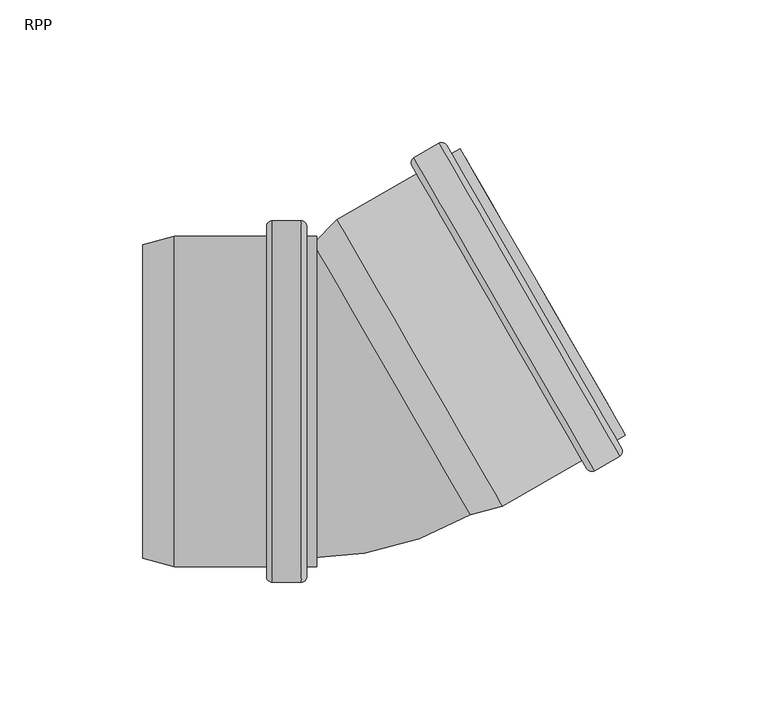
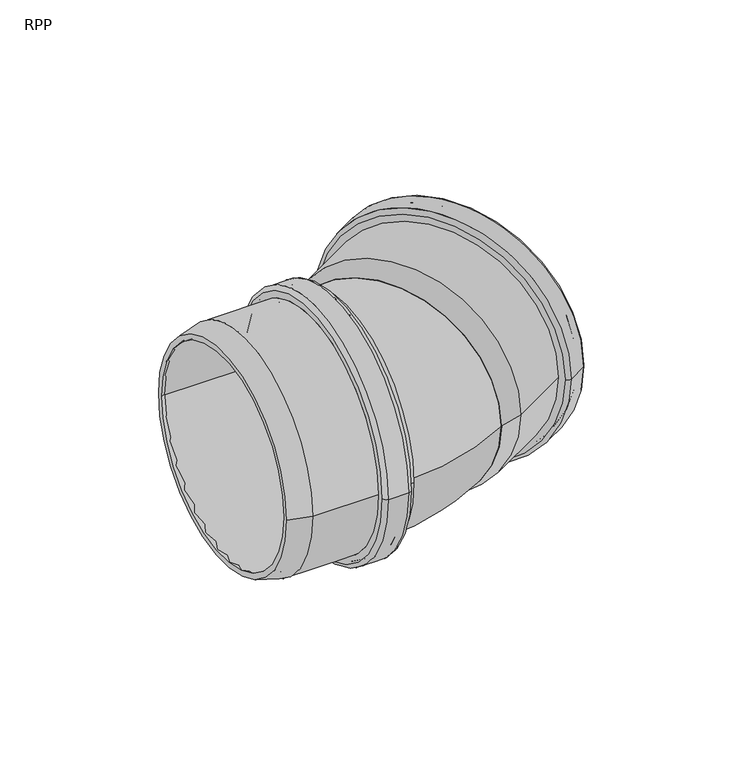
"""IFC4 building model written with IfcOpenShell, lengths in millimetres: pipe fitting geometry, RAUPIANO PLUS Bend : RPP."""

from ifc_helpers import new_model, si_unit, point, frame, origin, place, context, project, spatial, polyline, circle_curve, ellipse_curve, trimmed, source, transform, mapped, element, save
from ifc_brep_helpers import plane_surface, cylinder_surface, revolved_surface, advanced_brep


def rpp_8af34354(model_context):
    return source(origin(), model_context, "Body", "AdvancedBrep", [
        advanced_brep(
        [(-27.6090024, -55.3, 0.0), (-27.6090024, 55.3, 0.0), (-62.2573882, 55.3, 0.0), (-62.2573882, -55.3, 0.0), (-27.1090024, -60.7, 0.0), (-27.1090024, 60.7, 0.0), (-27.6090024, 60.2, 0.0), (-27.6090024, -60.2, 0.0), (-19.4090024, -60.7, 0.0), (-19.4090024, 60.7, 0.0), (-18.9090024, -60.2, 0.0), (-18.9090024, 60.2, 0.0), (-12.7090024, -55.3, 0.0), (-12.7090024, 55.3, 0.0), (-18.9090024, 55.3, 0.0), (-18.9090024, -55.3, 0.0), (-16.2090024, -58.0, 0.0), (-16.2090024, 58.0, 0.0), (-12.7090024, 58.0, 0.0), (-12.7090024, -58.0, 0.0), (-18.2090024, -63.4, 0.0), (-18.2090024, 63.4, 0.0), (-16.2090024, 61.4, 0.0), (-16.2090024, -61.4, 0.0), (-28.3090024, -63.4, 0.0), (-28.3090024, 63.4, 0.0), (-30.3090024, -61.4, 0.0), (-30.3090024, 61.4, 0.0), (-62.6128499, -58.0, 0.0), (-62.6128499, 58.0, 0.0), (-30.3090024, 58.0, 0.0), (-30.3090024, -58.0, 0.0), (-73.8090024, -55.0, 0.0), (-73.8090024, 55.0, 0.0), (-73.8090024, 52.2047543, 0.0), (-73.8090024, -52.2047543, 0.0)],
        [
            (0, 1, circle_curve(frame((-27.6090024, 0.0, 0.0), z_axis=(1.0, 0.0, 0.0), x_axis=(0.0, 1.0, 0.0)), 55.3)),
            (1, 2),
            (2, 3, circle_curve(frame((-62.2573882, 0.0, 0.0), z_axis=(-1.0, 0.0, 0.0), x_axis=(0.0, 1.0, 0.0)), 55.3)),
            (3, 0),
            (4, 5, circle_curve(frame((-27.1090024, 0.0, 0.0), z_axis=(1.0, 0.0, 0.0), x_axis=(0.0, 1.0, 0.0)), 60.7)),
            (5, 6, circle_curve(frame((-27.1090024, 60.2, 0.0), z_axis=(0.0, 0.0, 1.0), x_axis=(0.0, -1.0, 0.0)), 0.5)),
            (6, 7, circle_curve(frame((-27.6090024, 0.0, 0.0), z_axis=(-1.0, 0.0, 0.0), x_axis=(0.0, 1.0, 0.0)), 60.2)),
            (7, 4, circle_curve(frame((-27.1090024, -60.2, 0.0), z_axis=(0.0, 0.0, 1.0), x_axis=(0.0, 1.0, 0.0)), 0.5)),
            (8, 9, circle_curve(frame((-19.4090024, 0.0, 0.0), z_axis=(1.0, 0.0, 0.0), x_axis=(0.0, 1.0, 0.0)), 60.7)),
            (9, 5),
            (4, 8),
            (10, 11, circle_curve(frame((-18.9090024, 0.0, 0.0), z_axis=(1.0, 0.0, 0.0), x_axis=(0.0, 1.0, 0.0)), 60.2)),
            (11, 9, circle_curve(frame((-19.4090024, 60.2, 0.0), z_axis=(0.0, 0.0, 1.0), x_axis=(0.0, -1.0, 0.0)), 0.5)),
            (8, 10, circle_curve(frame((-19.4090024, -60.2, 0.0), z_axis=(0.0, 0.0, 1.0), x_axis=(0.0, 1.0, 0.0)), 0.5)),
            (12, 13, circle_curve(frame((-12.7090024, 0.0, 0.0), z_axis=(1.0, 0.0, 0.0), x_axis=(0.0, 1.0, 0.0)), 55.3)),
            (13, 14),
            (14, 15, circle_curve(frame((-18.9090024, 0.0, 0.0), z_axis=(-1.0, 0.0, 0.0), x_axis=(0.0, 1.0, 0.0)), 55.3)),
            (15, 12),
            (16, 17, circle_curve(frame((-16.2090024, 0.0, 0.0), z_axis=(1.0, 0.0, 0.0), x_axis=(0.0, 1.0, 0.0)), 58.0)),
            (17, 18),
            (18, 19, circle_curve(frame((-12.7090024, 0.0, 0.0), z_axis=(-1.0, 0.0, 0.0), x_axis=(0.0, 1.0, 0.0)), 58.0)),
            (19, 16),
            (20, 21, circle_curve(frame((-18.2090024, 0.0, 0.0), z_axis=(1.0, 0.0, 0.0), x_axis=(0.0, 1.0, 0.0)), 63.4)),
            (21, 22, circle_curve(frame((-18.2090024, 61.4, 0.0), z_axis=(0.0, 0.0, -1.0), x_axis=(0.0, -1.0, 0.0)), 2.0)),
            (22, 23, circle_curve(frame((-16.2090024, 0.0, 0.0), z_axis=(-1.0, 0.0, 0.0), x_axis=(0.0, 1.0, 0.0)), 61.4)),
            (23, 20, circle_curve(frame((-18.2090024, -61.4, 0.0), z_axis=(0.0, 0.0, -1.0), x_axis=(0.0, 1.0, 0.0)), 2.0)),
            (24, 25, circle_curve(frame((-28.3090024, 0.0, 0.0), z_axis=(1.0, 0.0, 0.0), x_axis=(0.0, 1.0, 0.0)), 63.4)),
            (25, 21),
            (20, 24),
            (26, 27, circle_curve(frame((-30.3090024, 0.0, 0.0), z_axis=(1.0, 0.0, 0.0), x_axis=(0.0, 1.0, 0.0)), 61.4)),
            (27, 25, circle_curve(frame((-28.3090024, 61.4, 0.0), z_axis=(0.0, 0.0, -1.0), x_axis=(0.0, -1.0, 0.0)), 2.0)),
            (24, 26, circle_curve(frame((-28.3090024, -61.4, 0.0), z_axis=(0.0, 0.0, -1.0), x_axis=(0.0, 1.0, 0.0)), 2.0)),
            (28, 29, circle_curve(frame((-62.6128499, 0.0, 0.0), z_axis=(1.0, 0.0, 0.0), x_axis=(0.0, 1.0, 0.0)), 58.0)),
            (29, 30),
            (30, 31, circle_curve(frame((-30.3090024, 0.0, 0.0), z_axis=(-1.0, 0.0, 0.0), x_axis=(0.0, 1.0, 0.0)), 58.0)),
            (31, 28),
            (32, 33, circle_curve(frame((-73.8090024, 0.0, 0.0), z_axis=(1.0, 0.0, 0.0), x_axis=(0.0, 1.0, 0.0)), 55.0)),
            (33, 29),
            (28, 32),
            (2, 34),
            (34, 35, circle_curve(frame((-73.8090024, 0.0, 0.0), z_axis=(-1.0, 0.0, 0.0), x_axis=(0.0, 1.0, 0.0)), 52.2047543)),
            (35, 3),
            (1, 0, circle_curve(frame((-27.6090024, 0.0, 0.0), z_axis=(1.0, 0.0, 0.0), x_axis=(0.0, -1.0, 0.0)), 55.3)),
            (3, 2, circle_curve(frame((-62.2573882, 0.0, 0.0), z_axis=(-1.0, 0.0, 0.0), x_axis=(0.0, -1.0, 0.0)), 55.3)),
            (6, 7, circle_curve(frame((-27.6090024, 0.0, 0.0), z_axis=(1.0, 0.0, 0.0), x_axis=(0.0, -1.0, 0.0)), 60.2)),
            (5, 4, circle_curve(frame((-27.1090024, 0.0, 0.0), z_axis=(1.0, 0.0, 0.0), x_axis=(0.0, -1.0, 0.0)), 60.7)),
            (9, 8, circle_curve(frame((-19.4090024, 0.0, 0.0), z_axis=(1.0, 0.0, 0.0), x_axis=(0.0, -1.0, 0.0)), 60.7)),
            (11, 10, circle_curve(frame((-18.9090024, 0.0, 0.0), z_axis=(1.0, 0.0, 0.0), x_axis=(0.0, -1.0, 0.0)), 60.2)),
            (14, 15, circle_curve(frame((-18.9090024, 0.0, 0.0), z_axis=(1.0, 0.0, 0.0), x_axis=(0.0, -1.0, 0.0)), 55.3)),
            (13, 12, circle_curve(frame((-12.7090024, 0.0, 0.0), z_axis=(1.0, 0.0, 0.0), x_axis=(0.0, -1.0, 0.0)), 55.3)),
            (18, 19, circle_curve(frame((-12.7090024, 0.0, 0.0), z_axis=(1.0, 0.0, 0.0), x_axis=(0.0, -1.0, 0.0)), 58.0)),
            (17, 16, circle_curve(frame((-16.2090024, 0.0, 0.0), z_axis=(1.0, 0.0, 0.0), x_axis=(0.0, -1.0, 0.0)), 58.0)),
            (22, 23, circle_curve(frame((-16.2090024, 0.0, 0.0), z_axis=(1.0, 0.0, 0.0), x_axis=(0.0, -1.0, 0.0)), 61.4)),
            (21, 20, circle_curve(frame((-18.2090024, 0.0, 0.0), z_axis=(1.0, 0.0, 0.0), x_axis=(0.0, -1.0, 0.0)), 63.4)),
            (25, 24, circle_curve(frame((-28.3090024, 0.0, 0.0), z_axis=(1.0, 0.0, 0.0), x_axis=(0.0, -1.0, 0.0)), 63.4)),
            (27, 26, circle_curve(frame((-30.3090024, 0.0, 0.0), z_axis=(1.0, 0.0, 0.0), x_axis=(0.0, -1.0, 0.0)), 61.4)),
            (30, 31, circle_curve(frame((-30.3090024, 0.0, 0.0), z_axis=(1.0, 0.0, 0.0), x_axis=(0.0, -1.0, 0.0)), 58.0)),
            (29, 28, circle_curve(frame((-62.6128499, 0.0, 0.0), z_axis=(1.0, 0.0, 0.0), x_axis=(0.0, -1.0, 0.0)), 58.0)),
            (33, 32, circle_curve(frame((-73.8090024, 0.0, 0.0), z_axis=(1.0, 0.0, 0.0), x_axis=(0.0, -1.0, 0.0)), 55.0)),
            (34, 35, circle_curve(frame((-73.8090024, 0.0, 0.0), z_axis=(1.0, 0.0, 0.0), x_axis=(0.0, -1.0, 0.0)), 52.2047543)),
        ],
        [
            revolved_surface(polyline([(-62.2573882, 55.3, 0.0), (-27.6090024, 55.3, 0.0)]), (-73.8090024, 0.0, 0.0), (-1.0, 0.0, 0.0)),
            revolved_surface(trimmed(ellipse_curve(frame((-27.1090024, 60.2, 0.0), z_axis=(0.0, 0.0, -1.0), x_axis=(0.0, -1.0, 0.0)), 0.5, 0.5), [point((-27.6090024, 60.2, 0.0))], [point((-27.1090024, 60.7, 0.0))], True, "CARTESIAN"), (-73.8090024, 0.0, 0.0), (-1.0, 0.0, 0.0)),
            revolved_surface(polyline([(-27.1090024, 60.7, 0.0), (-19.4090024, 60.7, 0.0)]), (-73.8090024, 0.0, 0.0), (-1.0, 0.0, 0.0)),
            revolved_surface(trimmed(ellipse_curve(frame((-19.4090024, 60.2, 0.0), z_axis=(0.0, 0.0, -1.0), x_axis=(0.0, -1.0, 0.0)), 0.5, 0.5), [point((-19.4090024, 60.7, 0.0))], [point((-18.9090024, 60.2, 0.0))], True, "CARTESIAN"), (-73.8090024, 0.0, 0.0), (-1.0, 0.0, 0.0)),
            revolved_surface(polyline([(-18.9090024, 55.3, 0.0), (-12.709002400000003, 55.3, 0.0)]), (-73.8090024, 0.0, 0.0), (-1.0, 0.0, 0.0)),
            cylinder_surface(frame((-73.8090024, 0.0, 0.0), z_axis=(-1.0, 0.0, 0.0), x_axis=(0.0, 1.0, 0.0)), 58.0),
            revolved_surface(trimmed(ellipse_curve(frame((-18.2090024, 61.4, 0.0), z_axis=(0.0, 0.0, 1.0), x_axis=(0.0, -1.0, 0.0)), 2.0, 2.0), [point((-16.2090024, 61.4, 0.0))], [point((-18.2090024, 63.4, 0.0))], True, "CARTESIAN"), (-73.8090024, 0.0, 0.0), (-1.0, 0.0, 0.0)),
            cylinder_surface(frame((-73.8090024, 0.0, 0.0), z_axis=(-1.0, 0.0, 0.0), x_axis=(0.0, 1.0, 0.0)), 63.4),
            revolved_surface(trimmed(ellipse_curve(frame((-28.3090024, 61.4, 0.0), z_axis=(0.0, 0.0, 1.0), x_axis=(0.0, -1.0, 0.0)), 2.0, 2.0), [point((-28.3090024, 63.4, 0.0))], [point((-30.3090024, 61.4, 0.0))], True, "CARTESIAN"), (-73.8090024, 0.0, 0.0), (-1.0, 0.0, 0.0)),
            revolved_surface(polyline([(-62.6128499, 58.0, 0.0), (-73.8090024, 55.0, 0.0)]), (-73.8090024, 0.0, 0.0), (-1.0, 0.0, 0.0)),
            revolved_surface(polyline([(-73.8090024, 52.2047543, 0.0), (-62.2573882, 55.3, 0.0)]), (-73.8090024, 0.0, 0.0), (-1.0, 0.0, 0.0)),
            revolved_surface(polyline([(-62.2573882, -55.3, 0.0), (-27.6090024, -55.3, 0.0)]), (-73.8090024, 0.0, 0.0), (-1.0, 0.0, 0.0)),
            plane_surface(frame((-27.6090024, 0.0, 0.0), z_axis=(1.0, 0.0, 0.0), x_axis=(0.0, -1.0, 0.0))),
            revolved_surface(trimmed(ellipse_curve(frame((-27.1090024, -60.2, 0.0), z_axis=(0.0, 0.0, 1.0), x_axis=(0.0, 1.0, 0.0)), 0.5, 0.5), [point((-27.6090024, -60.2, 0.0))], [point((-27.1090024, -60.7, 0.0))], True, "CARTESIAN"), (-73.8090024, 0.0, 0.0), (-1.0, 0.0, 0.0)),
            revolved_surface(polyline([(-27.1090024, -60.7, 0.0), (-19.4090024, -60.7, 0.0)]), (-73.8090024, 0.0, 0.0), (-1.0, 0.0, 0.0)),
            revolved_surface(trimmed(ellipse_curve(frame((-19.4090024, -60.2, 0.0), z_axis=(0.0, 0.0, 1.0), x_axis=(0.0, 1.0, 0.0)), 0.5, 0.5), [point((-19.4090024, -60.7, 0.0))], [point((-18.9090024, -60.2, 0.0))], True, "CARTESIAN"), (-73.8090024, 0.0, 0.0), (-1.0, 0.0, 0.0)),
            plane_surface(frame((-18.9090024, 0.0, 0.0), z_axis=(-1.0, 0.0, 0.0), x_axis=(0.0, -1.0, 0.0))),
            revolved_surface(polyline([(-18.9090024, -55.3, 0.0), (-12.709002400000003, -55.3, 0.0)]), (-73.8090024, 0.0, 0.0), (-1.0, 0.0, 0.0)),
            plane_surface(frame((-12.7090024, 0.0, 0.0), z_axis=(1.0, 0.0, 0.0), x_axis=(0.0, -1.0, 0.0))),
            cylinder_surface(frame((-73.8090024, 0.0, 0.0), z_axis=(-1.0, 0.0, 0.0), x_axis=(0.0, -1.0, 0.0)), 58.0),
            plane_surface(frame((-16.2090024, 0.0, 0.0), z_axis=(1.0, 0.0, 0.0), x_axis=(0.0, -1.0, 0.0))),
            revolved_surface(trimmed(ellipse_curve(frame((-18.2090024, -61.4, 0.0), z_axis=(0.0, 0.0, -1.0), x_axis=(0.0, 1.0, 0.0)), 2.0, 2.0), [point((-16.2090024, -61.4, 0.0))], [point((-18.2090024, -63.4, 0.0))], True, "CARTESIAN"), (-73.8090024, 0.0, 0.0), (-1.0, 0.0, 0.0)),
            cylinder_surface(frame((-73.8090024, 0.0, 0.0), z_axis=(-1.0, 0.0, 0.0), x_axis=(0.0, -1.0, 0.0)), 63.4),
            revolved_surface(trimmed(ellipse_curve(frame((-28.3090024, -61.4, 0.0), z_axis=(0.0, 0.0, -1.0), x_axis=(0.0, 1.0, 0.0)), 2.0, 2.0), [point((-28.3090024, -63.4, 0.0))], [point((-30.3090024, -61.4, 0.0))], True, "CARTESIAN"), (-73.8090024, 0.0, 0.0), (-1.0, 0.0, 0.0)),
            plane_surface(frame((-30.3090024, 0.0, 0.0), z_axis=(-1.0, 0.0, 0.0), x_axis=(0.0, -1.0, 0.0))),
            revolved_surface(polyline([(-62.6128499, -58.0, 0.0), (-73.8090024, -55.0, 0.0)]), (-73.8090024, 0.0, 0.0), (-1.0, 0.0, 0.0)),
            plane_surface(frame((-73.8090024, 0.0, 0.0), z_axis=(-1.0, 0.0, 0.0), x_axis=(0.0, -1.0, 0.0))),
            revolved_surface(polyline([(-73.8090024, -52.2047543, 0.0), (-62.2573882, -55.3, 0.0)]), (-73.8090024, 0.0, 0.0), (-1.0, 0.0, 0.0)),
        ],
        [
            (0, [[1, 2, 3, 4]]),
            (1, [[5, 6, 7, 8]]),
            (2, [[9, 10, -5, 11]]),
            (3, [[12, 13, -9, 14]]),
            (4, [[15, 16, 17, 18]]),
            (5, [[19, 20, 21, 22]]),
            (6, [[23, 24, 25, 26]]),
            (7, [[27, 28, -23, 29]]),
            (8, [[30, 31, -27, 32]]),
            (5, [[33, 34, 35, 36]]),
            (9, [[37, 38, -33, 39]]),
            (10, [[-3, 40, 41, 42]]),
            (11, [[43, -4, 44, -2]]),
            (12, [[45, -7], [-43, -1]]),
            (13, [[46, -8, -45, -6]]),
            (14, [[47, -11, -46, -10]]),
            (15, [[48, -14, -47, -13]]),
            (16, [[-48, -12], [49, -17]]),
            (17, [[50, -18, -49, -16]]),
            (18, [[51, -21], [-50, -15]]),
            (19, [[52, -22, -51, -20]]),
            (20, [[53, -25], [-52, -19]]),
            (21, [[54, -26, -53, -24]]),
            (22, [[55, -29, -54, -28]]),
            (23, [[56, -32, -55, -31]]),
            (24, [[-56, -30], [57, -35]]),
            (19, [[58, -36, -57, -34]]),
            (25, [[59, -39, -58, -38]]),
            (26, [[-59, -37], [60, -41]]),
            (27, [[-44, -42, -60, -40]]),
        ],
    ),
        advanced_brep(
        [(39.7933748, -37.3061423, 0.0), (-12.4113795, 53.1151446, 0.0), (-3.955011, 61.5715131, 0.0), (51.344989, -34.2108966, 0.0), (52.3871501, -36.726896, 0.0), (-5.6128499, 63.7320508, 0.0), (-13.8090024, 55.5358984, 0.0), (41.1909976, -39.726896, 0.0), (80.3631027, -20.5749722, 0.0), (22.3631027, 79.8839746, 0.0), (93.5420101, -19.2015094, 0.0), (30.1420101, 90.6105118, 0.0), (21.3951535, 85.5605118, 0.0), (84.7951535, -24.2515094, 0.0), (95.6051498, -11.7749722, 0.0), (37.6051498, 88.6839746, 0.0), (34.5740609, 86.9339746, 0.0), (92.5740609, -13.5249722, 0.0), (88.8857923, -12.5367037, 0.0), (33.5857923, 83.245706, 0.0), (38.9551498, 86.345706, 0.0), (94.2551498, -9.4367037, 0.0), (84.484384, -21.3132408, 0.0), (23.784384, 83.8222432, 0.0), (30.4527796, 87.6722432, 0.0), (91.1527796, -17.4632408, 0.0), (26.0513713, 78.895706, 0.0), (81.3513713, -16.8867037, 0.0), (20.6631027, 82.828461, 0.0), (82.0631027, -23.5194586, 0.0), (94.2740609, -16.4694586, 0.0), (32.8740609, 89.878461, 0.0), (31.1357923, 87.4892305, 0.0), (91.3357923, -16.7802281, 0.0), (83.8013713, -21.1302281, 0.0), (23.6013713, 83.1392305, 0.0)],
        [
            (0, 1, circle_curve(frame((13.6909976, 7.9045012, 0.0), z_axis=(-0.8660254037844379, -0.5000000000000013, 0.0), x_axis=(-0.5000000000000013, 0.8660254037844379, 0.0)), 52.2047543)),
            (1, 2),
            (2, 3, circle_curve(frame((23.694989, 13.6803083, 0.0), z_axis=(0.8660254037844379, 0.5000000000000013, 0.0), x_axis=(-0.5000000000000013, 0.8660254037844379, 0.0)), 55.3)),
            (3, 0),
            (4, 5, circle_curve(frame((23.3871501, 13.5025774, 0.0), z_axis=(-0.8660254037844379, -0.5000000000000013, 0.0), x_axis=(-0.5000000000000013, 0.8660254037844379, 0.0)), 58.0)),
            (5, 6),
            (6, 7, circle_curve(frame((13.6909976, 7.9045012, 0.0), z_axis=(0.8660254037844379, 0.5000000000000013, 0.0), x_axis=(-0.5000000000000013, 0.8660254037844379, 0.0)), 55.0)),
            (7, 4),
            (8, 9, circle_curve(frame((51.3631027, 29.6545012, 0.0), z_axis=(-0.8660254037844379, -0.5000000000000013, 0.0), x_axis=(-0.5000000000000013, 0.8660254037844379, 0.0)), 58.0)),
            (9, 5),
            (4, 8),
            (10, 11, circle_curve(frame((61.8420101, 35.7045012, 0.0), z_axis=(-0.8660254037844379, -0.5000000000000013, 0.0), x_axis=(-0.5000000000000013, 0.8660254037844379, 0.0)), 63.4)),
            (11, 12),
            (12, 13, circle_curve(frame((53.0951535, 30.6545012, 0.0), z_axis=(0.8660254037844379, 0.5000000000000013, 0.0), x_axis=(-0.5000000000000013, 0.8660254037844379, 0.0)), 63.4)),
            (13, 10),
            (14, 15, circle_curve(frame((66.6051498, 38.4545012, 0.0), z_axis=(-0.8660254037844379, -0.5000000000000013, 0.0), x_axis=(-0.5000000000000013, 0.8660254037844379, 0.0)), 58.0)),
            (15, 16),
            (16, 17, circle_curve(frame((63.5740609, 36.7045012, 0.0), z_axis=(0.8660254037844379, 0.5000000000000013, 0.0), x_axis=(-0.5000000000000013, 0.8660254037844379, 0.0)), 58.0)),
            (17, 14),
            (18, 19, circle_curve(frame((61.2357923, 35.3545012, 0.0), z_axis=(-0.8660254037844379, -0.5000000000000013, 0.0), x_axis=(-0.5000000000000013, 0.8660254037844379, 0.0)), 55.3)),
            (19, 20),
            (20, 21, circle_curve(frame((66.6051498, 38.4545012, 0.0), z_axis=(0.8660254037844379, 0.5000000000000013, 0.0), x_axis=(-0.5000000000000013, 0.8660254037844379, 0.0)), 55.3)),
            (21, 18),
            (22, 23, circle_curve(frame((54.134384, 31.2545012, 0.0), z_axis=(-0.8660254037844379, -0.5000000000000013, 0.0), x_axis=(-0.5000000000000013, 0.8660254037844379, 0.0)), 60.7)),
            (23, 24),
            (24, 25, circle_curve(frame((60.8027796, 35.1045012, 0.0), z_axis=(0.8660254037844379, 0.5000000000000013, 0.0), x_axis=(-0.5000000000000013, 0.8660254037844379, 0.0)), 60.7)),
            (25, 22),
            (2, 26),
            (26, 27, circle_curve(frame((53.7013713, 31.0045012, 0.0), z_axis=(0.8660254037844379, 0.5000000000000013, 0.0), x_axis=(-0.5000000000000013, 0.8660254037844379, 0.0)), 55.3)),
            (27, 3),
            (1, 0, circle_curve(frame((13.6909976, 7.9045012, 0.0), z_axis=(-0.8660254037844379, -0.5000000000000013, 0.0), x_axis=(0.5000000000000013, -0.8660254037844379, 0.0)), 52.2047543)),
            (3, 2, circle_curve(frame((23.694989, 13.6803083, 0.0), z_axis=(0.8660254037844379, 0.5000000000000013, 0.0), x_axis=(0.5000000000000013, -0.8660254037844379, 0.0)), 55.3)),
            (6, 7, circle_curve(frame((13.6909976, 7.9045012, 0.0), z_axis=(-0.8660254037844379, -0.5000000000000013, 0.0), x_axis=(0.5000000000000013, -0.8660254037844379, 0.0)), 55.0)),
            (5, 4, circle_curve(frame((23.3871501, 13.5025774, 0.0), z_axis=(-0.8660254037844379, -0.5000000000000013, 0.0), x_axis=(0.5000000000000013, -0.8660254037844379, 0.0)), 58.0)),
            (9, 8, circle_curve(frame((51.3631027, 29.6545012, 0.0), z_axis=(-0.8660254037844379, -0.5000000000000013, 0.0), x_axis=(0.5000000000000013, -0.8660254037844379, 0.0)), 58.0)),
            (28, 29, circle_curve(frame((51.3631027, 29.6545012, 0.0), z_axis=(-0.8660254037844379, -0.5000000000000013, 0.0), x_axis=(0.5000000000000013, -0.8660254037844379, 0.0)), 61.4)),
            (29, 28, circle_curve(frame((51.3631027, 29.6545012, 0.0), z_axis=(-0.8660254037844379, -0.5000000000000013, 0.0), x_axis=(-0.5000000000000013, 0.8660254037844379, 0.0)), 61.4)),
            (11, 10, circle_curve(frame((61.8420101, 35.7045012, 0.0), z_axis=(-0.8660254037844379, -0.5000000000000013, 0.0), x_axis=(0.5000000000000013, -0.8660254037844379, 0.0)), 63.4)),
            (13, 12, circle_curve(frame((53.0951535, 30.6545012, 0.0), z_axis=(0.8660254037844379, 0.5000000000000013, 0.0), x_axis=(0.5000000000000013, -0.8660254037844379, 0.0)), 63.4)),
            (30, 31, circle_curve(frame((63.5740609, 36.7045012, 0.0), z_axis=(0.8660254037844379, 0.5000000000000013, 0.0), x_axis=(0.5000000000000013, -0.8660254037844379, 0.0)), 61.4)),
            (31, 30, circle_curve(frame((63.5740609, 36.7045012, 0.0), z_axis=(0.8660254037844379, 0.5000000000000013, 0.0), x_axis=(-0.5000000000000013, 0.8660254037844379, 0.0)), 61.4)),
            (16, 17, circle_curve(frame((63.5740609, 36.7045012, 0.0), z_axis=(-0.8660254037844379, -0.5000000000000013, 0.0), x_axis=(0.5000000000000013, -0.8660254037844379, 0.0)), 58.0)),
            (15, 14, circle_curve(frame((66.6051498, 38.4545012, 0.0), z_axis=(-0.8660254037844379, -0.5000000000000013, 0.0), x_axis=(0.5000000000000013, -0.8660254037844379, 0.0)), 58.0)),
            (20, 21, circle_curve(frame((66.6051498, 38.4545012, 0.0), z_axis=(-0.8660254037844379, -0.5000000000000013, 0.0), x_axis=(0.5000000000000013, -0.8660254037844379, 0.0)), 55.3)),
            (19, 18, circle_curve(frame((61.2357923, 35.3545012, 0.0), z_axis=(-0.8660254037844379, -0.5000000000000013, 0.0), x_axis=(0.5000000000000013, -0.8660254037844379, 0.0)), 55.3)),
            (32, 33, circle_curve(frame((61.2357923, 35.3545012, 0.0), z_axis=(-0.8660254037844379, -0.5000000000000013, 0.0), x_axis=(0.5000000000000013, -0.8660254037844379, 0.0)), 60.2)),
            (33, 32, circle_curve(frame((61.2357923, 35.3545012, 0.0), z_axis=(-0.8660254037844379, -0.5000000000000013, 0.0), x_axis=(-0.5000000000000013, 0.8660254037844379, 0.0)), 60.2)),
            (23, 22, circle_curve(frame((54.134384, 31.2545012, 0.0), z_axis=(-0.8660254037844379, -0.5000000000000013, 0.0), x_axis=(0.5000000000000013, -0.8660254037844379, 0.0)), 60.7)),
            (25, 24, circle_curve(frame((60.8027796, 35.1045012, 0.0), z_axis=(0.8660254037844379, 0.5000000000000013, 0.0), x_axis=(0.5000000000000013, -0.8660254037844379, 0.0)), 60.7)),
            (34, 35, circle_curve(frame((53.7013713, 31.0045012, 0.0), z_axis=(0.8660254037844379, 0.5000000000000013, 0.0), x_axis=(0.5000000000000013, -0.8660254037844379, 0.0)), 60.2)),
            (35, 34, circle_curve(frame((53.7013713, 31.0045012, 0.0), z_axis=(0.8660254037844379, 0.5000000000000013, 0.0), x_axis=(-0.5000000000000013, 0.8660254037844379, 0.0)), 60.2)),
            (26, 27, circle_curve(frame((53.7013713, 31.0045012, 0.0), z_axis=(-0.8660254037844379, -0.5000000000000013, 0.0), x_axis=(0.5000000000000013, -0.8660254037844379, 0.0)), 55.3)),
            (12, 28, circle_curve(frame((22.3951535, 83.828461, 0.0), z_axis=(0.0, 0.0, 1.0), x_axis=(0.5000000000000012, -0.866025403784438, 0.0)), 2.0)),
            (29, 13, circle_curve(frame((83.7951535, -22.5194586, 0.0), z_axis=(0.0, 0.0, 1.0), x_axis=(-0.5000000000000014, 0.8660254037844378, 0.0)), 2.0)),
            (31, 11, circle_curve(frame((31.1420101, 88.878461, 0.0), z_axis=(0.0, 0.0, 1.0), x_axis=(0.5000000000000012, -0.866025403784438, 0.0)), 2.0)),
            (10, 30, circle_curve(frame((92.5420101, -17.4694586, 0.0), z_axis=(0.0, 0.0, 1.0), x_axis=(-0.5000000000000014, 0.8660254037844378, 0.0)), 2.0)),
            (24, 32, circle_curve(frame((30.7027796, 87.2392305, 0.0), z_axis=(0.0, 0.0, -1.0), x_axis=(0.5000000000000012, -0.866025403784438, 0.0)), 0.5)),
            (33, 25, circle_curve(frame((90.9027796, -17.0302281, 0.0), z_axis=(0.0, 0.0, -1.0), x_axis=(-0.5000000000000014, 0.8660254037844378, 0.0)), 0.5)),
            (35, 23, circle_curve(frame((24.034384, 83.3892305, 0.0), z_axis=(0.0, 0.0, -1.0), x_axis=(0.5000000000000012, -0.866025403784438, 0.0)), 0.5)),
            (22, 34, circle_curve(frame((84.234384, -20.8802281, 0.0), z_axis=(0.0, 0.0, -1.0), x_axis=(-0.5000000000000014, 0.8660254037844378, 0.0)), 0.5)),
        ],
        [
            revolved_surface(polyline([(-3.955011, 61.5715131, 0.0), (-12.4113795, 53.1151446, 0.0)]), (13.6909976, 7.9045012, 0.0), (0.8660254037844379, 0.5000000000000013, 0.0)),
            revolved_surface(polyline([(-13.8090024, 55.5358984, 0.0), (-5.6128499, 63.7320508, 0.0)]), (13.6909976, 7.9045012, 0.0), (0.8660254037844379, 0.5000000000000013, 0.0)),
            cylinder_surface(frame((13.6909976, 7.9045012, 0.0), z_axis=(0.8660254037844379, 0.5000000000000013, 0.0), x_axis=(-0.5000000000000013, 0.8660254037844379, 0.0)), 58.0),
            cylinder_surface(frame((13.6909976, 7.9045012, 0.0), z_axis=(0.8660254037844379, 0.5000000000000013, 0.0), x_axis=(-0.5000000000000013, 0.8660254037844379, 0.0)), 63.4),
            revolved_surface(polyline([(38.95514979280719, 86.34570604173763, 0.0), (33.58579226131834, 83.24570602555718, 0.0)]), (13.6909976, 7.9045012, 0.0), (0.8660254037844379, 0.5000000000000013, 0.0)),
            revolved_surface(polyline([(30.452779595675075, 87.6722432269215, 0.0), (23.784383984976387, 83.82224322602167, 0.0)]), (13.6909976, 7.9045012, 0.0), (0.8660254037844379, 0.5000000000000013, 0.0)),
            revolved_surface(polyline([(26.051371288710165, 78.89570604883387, 0.0), (-3.9550110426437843, 61.57151313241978, 0.0)]), (13.6909976, 7.9045012, 0.0), (0.8660254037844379, 0.5000000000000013, 0.0)),
            revolved_surface(polyline([(51.344989, -34.2108966, 0.0), (39.7933748, -37.3061423, 0.0)]), (13.6909976, 7.9045012, 0.0), (0.8660254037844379, 0.5000000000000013, 0.0)),
            plane_surface(frame((13.6909976, 7.9045012, 0.0), z_axis=(-0.8660254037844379, -0.5000000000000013, 0.0), x_axis=(0.5000000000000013, -0.8660254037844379, 0.0))),
            revolved_surface(polyline([(41.1909976, -39.726896, 0.0), (52.3871501, -36.726896, 0.0)]), (13.6909976, 7.9045012, 0.0), (0.8660254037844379, 0.5000000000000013, 0.0)),
            cylinder_surface(frame((13.6909976, 7.9045012, 0.0), z_axis=(0.8660254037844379, 0.5000000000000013, 0.0), x_axis=(0.5000000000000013, -0.8660254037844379, 0.0)), 58.0),
            plane_surface(frame((51.3631027, 29.6545012, 0.0), z_axis=(-0.8660254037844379, -0.5000000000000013, 0.0), x_axis=(0.5000000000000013, -0.8660254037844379, 0.0))),
            cylinder_surface(frame((13.6909976, 7.9045012, 0.0), z_axis=(0.8660254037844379, 0.5000000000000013, 0.0), x_axis=(0.5000000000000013, -0.8660254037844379, 0.0)), 63.4),
            plane_surface(frame((63.5740609, 36.7045012, 0.0), z_axis=(0.8660254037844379, 0.5000000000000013, 0.0), x_axis=(0.5000000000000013, -0.8660254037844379, 0.0))),
            plane_surface(frame((66.6051498, 38.4545012, 0.0), z_axis=(0.8660254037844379, 0.5000000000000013, 0.0), x_axis=(0.5000000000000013, -0.8660254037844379, 0.0))),
            revolved_surface(polyline([(94.25514979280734, -9.436703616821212, 0.0), (88.88579226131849, -12.536703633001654, 0.0)]), (13.6909976, 7.9045012, 0.0), (0.8660254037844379, 0.5000000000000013, 0.0)),
            plane_surface(frame((61.2357923, 35.3545012, 0.0), z_axis=(-0.8660254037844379, -0.5000000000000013, 0.0), x_axis=(0.5000000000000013, -0.8660254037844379, 0.0))),
            revolved_surface(polyline([(91.15277959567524, -17.46324079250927, 0.0), (84.48438398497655, -21.31324079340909, 0.0)]), (13.6909976, 7.9045012, 0.0), (0.8660254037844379, 0.5000000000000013, 0.0)),
            plane_surface(frame((53.7013713, 31.0045012, 0.0), z_axis=(0.8660254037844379, 0.5000000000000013, 0.0), x_axis=(0.5000000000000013, -0.8660254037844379, 0.0))),
            revolved_surface(polyline([(81.35137128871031, -16.88670360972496, 0.0), (51.344988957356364, -34.21089652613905, 0.0)]), (13.6909976, 7.9045012, 0.0), (0.8660254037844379, 0.5000000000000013, 0.0)),
            revolved_surface(trimmed(ellipse_curve(frame((22.3951535, 83.828461, 0.0), z_axis=(0.0, 0.0, -1.0), x_axis=(0.5000000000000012, -0.866025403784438, 0.0)), 2.0, 2.0), [point((20.6631027, 82.828461, 0.0))], [point((21.3951535, 85.5605118, 0.0))], True, "CARTESIAN"), (13.6909976, 7.9045012, 0.0), (0.8660254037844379, 0.5000000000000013, 0.0)),
            revolved_surface(trimmed(ellipse_curve(frame((31.1420101, 88.878461, 0.0), z_axis=(0.0, 0.0, -1.0), x_axis=(0.5000000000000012, -0.866025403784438, 0.0)), 2.0, 2.0), [point((30.1420101, 90.6105118, 0.0))], [point((32.8740609, 89.878461, 0.0))], True, "CARTESIAN"), (13.6909976, 7.9045012, 0.0), (0.8660254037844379, 0.5000000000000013, 0.0)),
            revolved_surface(trimmed(ellipse_curve(frame((30.7027796, 87.2392305, 0.0), z_axis=(0.0, 0.0, 1.0), x_axis=(0.5000000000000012, -0.866025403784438, 0.0)), 0.5, 0.5), [point((31.1357923, 87.4892305, 0.0))], [point((30.4527796, 87.6722432, 0.0))], True, "CARTESIAN"), (13.6909976, 7.9045012, 0.0), (0.8660254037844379, 0.5000000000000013, 0.0)),
            revolved_surface(trimmed(ellipse_curve(frame((24.034384, 83.3892305, 0.0), z_axis=(0.0, 0.0, 1.0), x_axis=(0.5000000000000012, -0.866025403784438, 0.0)), 0.5, 0.5), [point((23.784384, 83.8222432, 0.0))], [point((23.6013713, 83.1392305, 0.0))], True, "CARTESIAN"), (13.6909976, 7.9045012, 0.0), (0.8660254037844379, 0.5000000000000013, 0.0)),
            revolved_surface(trimmed(ellipse_curve(frame((83.7951535, -22.5194586, 0.0), z_axis=(0.0, 0.0, 1.0), x_axis=(-0.5000000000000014, 0.8660254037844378, 0.0)), 2.0, 2.0), [point((82.0631027, -23.5194586, 0.0))], [point((84.7951535, -24.2515094, 0.0))], True, "CARTESIAN"), (13.6909976, 7.9045012, 0.0), (0.8660254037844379, 0.5000000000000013, 0.0)),
            revolved_surface(trimmed(ellipse_curve(frame((92.5420101, -17.4694586, 0.0), z_axis=(0.0, 0.0, 1.0), x_axis=(-0.5000000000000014, 0.8660254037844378, 0.0)), 2.0, 2.0), [point((93.5420101, -19.2015094, 0.0))], [point((94.2740609, -16.4694586, 0.0))], True, "CARTESIAN"), (13.6909976, 7.9045012, 0.0), (0.8660254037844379, 0.5000000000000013, 0.0)),
            revolved_surface(trimmed(ellipse_curve(frame((90.9027796, -17.0302281, 0.0), z_axis=(0.0, 0.0, -1.0), x_axis=(-0.5000000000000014, 0.8660254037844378, 0.0)), 0.5, 0.5), [point((91.3357923, -16.7802281, 0.0))], [point((91.1527796, -17.4632408, 0.0))], True, "CARTESIAN"), (13.6909976, 7.9045012, 0.0), (0.8660254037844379, 0.5000000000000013, 0.0)),
            revolved_surface(trimmed(ellipse_curve(frame((84.234384, -20.8802281, 0.0), z_axis=(0.0, 0.0, -1.0), x_axis=(-0.5000000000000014, 0.8660254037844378, 0.0)), 0.5, 0.5), [point((84.484384, -21.3132408, 0.0))], [point((83.8013713, -21.1302281, 0.0))], True, "CARTESIAN"), (13.6909976, 7.9045012, 0.0), (0.8660254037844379, 0.5000000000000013, 0.0)),
        ],
        [
            (0, [[1, 2, 3, 4]]),
            (1, [[5, 6, 7, 8]]),
            (2, [[9, 10, -5, 11]]),
            (3, [[12, 13, 14, 15]]),
            (2, [[16, 17, 18, 19]]),
            (4, [[20, 21, 22, 23]]),
            (5, [[24, 25, 26, 27]]),
            (6, [[-3, 28, 29, 30]]),
            (7, [[31, -4, 32, -2]]),
            (8, [[33, -7], [-31, -1]]),
            (9, [[34, -8, -33, -6]]),
            (10, [[35, -11, -34, -10]]),
            (11, [[36, 37], [-35, -9]]),
            (12, [[38, -15, 39, -13]]),
            (13, [[40, 41], [42, -18]]),
            (10, [[43, -19, -42, -17]]),
            (14, [[-43, -16], [44, -22]]),
            (15, [[45, -23, -44, -21]]),
            (16, [[46, 47], [-45, -20]]),
            (17, [[48, -27, 49, -25]]),
            (18, [[50, 51], [52, -29]]),
            (19, [[-32, -30, -52, -28]]),
            (20, [[-14, 53, -37, 54]]),
            (21, [[-41, 55, -12, 56]]),
            (22, [[-26, 57, -47, 58]]),
            (23, [[-51, 59, -24, 60]]),
            (24, [[-39, -54, -36, -53]]),
            (25, [[-40, -56, -38, -55]]),
            (26, [[-49, -58, -46, -57]]),
            (27, [[-50, -60, -48, -59]]),
        ],
    ),
        advanced_brep(
        [(-15.8090024, 52.3, 0.0), (-15.8090024, -52.3, 0.0), (-73.8090024, -52.3, 0.0), (-73.8090024, 52.3, 0.0), (-66.7181058, 55.0, 0.0), (-66.7181058, -55.0, 0.0), (-15.8090024, -55.0, 0.0), (-15.8090024, 55.0, 0.0), (-73.8090024, 53.1, 0.0), (-73.8090024, -53.1, 0.0)],
        [
            (0, 1, circle_curve(frame((-15.8090024, 0.0, 0.0), z_axis=(1.0, 0.0, 0.0), x_axis=(0.0, -1.0, 0.0)), 52.3)),
            (1, 2),
            (2, 3, circle_curve(frame((-73.8090024, 0.0, 0.0), z_axis=(-1.0, 0.0, 0.0), x_axis=(0.0, -1.0, 0.0)), 52.3)),
            (3, 0),
            (4, 5, circle_curve(frame((-66.7181058, 0.0, 0.0), z_axis=(1.0, 0.0, 0.0), x_axis=(0.0, -1.0, 0.0)), 55.0)),
            (5, 6),
            (6, 7, circle_curve(frame((-15.8090024, 0.0, 0.0), z_axis=(-1.0, 0.0, 0.0), x_axis=(0.0, -1.0, 0.0)), 55.0)),
            (7, 4),
            (8, 9, circle_curve(frame((-73.8090024, 0.0, 0.0), z_axis=(1.0, 0.0, 0.0), x_axis=(0.0, -1.0, 0.0)), 53.1)),
            (9, 5),
            (4, 8),
            (1, 0, circle_curve(frame((-15.8090024, 0.0, 0.0), z_axis=(1.0, 0.0, 0.0), x_axis=(0.0, 1.0, 0.0)), 52.3)),
            (3, 2, circle_curve(frame((-73.8090024, 0.0, 0.0), z_axis=(-1.0, 0.0, 0.0), x_axis=(0.0, 1.0, 0.0)), 52.3)),
            (6, 7, circle_curve(frame((-15.8090024, 0.0, 0.0), z_axis=(1.0, 0.0, 0.0), x_axis=(0.0, 1.0, 0.0)), 55.0)),
            (5, 4, circle_curve(frame((-66.7181058, 0.0, 0.0), z_axis=(1.0, 0.0, 0.0), x_axis=(0.0, 1.0, 0.0)), 55.0)),
            (9, 8, circle_curve(frame((-73.8090024, 0.0, 0.0), z_axis=(1.0, 0.0, 0.0), x_axis=(0.0, 1.0, 0.0)), 53.1)),
        ],
        [
            revolved_surface(polyline([(-73.8090024, -52.3, 0.0), (-15.8090024, -52.3, 0.0)]), (-15.8090024, 0.0, 0.0), (-1.0, 0.0, 0.0)),
            cylinder_surface(frame((-15.8090024, 0.0, 0.0), z_axis=(-1.0, 0.0, 0.0), x_axis=(0.0, -1.0, 0.0)), 55.0),
            revolved_surface(polyline([(-66.7181058, -55.0, 0.0), (-73.8090024, -53.1, 0.0)]), (-15.8090024, 0.0, 0.0), (-1.0, 0.0, 0.0)),
            revolved_surface(polyline([(-73.8090024, 52.3, 0.0), (-15.8090024, 52.3, 0.0)]), (-15.8090024, 0.0, 0.0), (-1.0, 0.0, 0.0)),
            plane_surface(frame((-15.8090024, 0.0, 0.0), z_axis=(1.0, 0.0, 0.0), x_axis=(0.0, 1.0, 0.0))),
            cylinder_surface(frame((-15.8090024, 0.0, 0.0), z_axis=(-1.0, 0.0, 0.0), x_axis=(0.0, 1.0, 0.0)), 55.0),
            revolved_surface(polyline([(-66.7181058, 55.0, 0.0), (-73.8090024, 53.1, 0.0)]), (-15.8090024, 0.0, 0.0), (-1.0, 0.0, 0.0)),
            plane_surface(frame((-73.8090024, 0.0, 0.0), z_axis=(-1.0, 0.0, 0.0), x_axis=(0.0, 1.0, 0.0))),
        ],
        [
            (0, [[1, 2, 3, 4]]),
            (1, [[5, 6, 7, 8]]),
            (2, [[9, 10, -5, 11]]),
            (3, [[12, -4, 13, -2]]),
            (4, [[14, -7], [-12, -1]]),
            (5, [[15, -8, -14, -6]]),
            (6, [[16, -11, -15, -10]]),
            (7, [[-16, -9], [-13, -3]]),
        ],
    ),
        advanced_brep(
        [(-15.8090024, -55.0, 0.0), (-15.8090024, 55.0, 0.0), (-15.8090024, -52.3, 0.0), (-15.8090024, 52.3, 0.0), (41.1909976, -39.726896, 0.0), (-13.8090024, 55.5358984, 0.0), (39.8409976, -37.3886274, 0.0), (-12.4590024, 53.1976298, 0.0)],
        [
            (0, 1, circle_curve(frame((-15.8090024, 0.0, 0.0), z_axis=(-1.0, 0.0, 0.0), x_axis=(0.0, 1.0, 0.0)), 55.0)),
            (1, 0, circle_curve(frame((-15.8090024, 0.0, 0.0), z_axis=(-1.0, 0.0, 0.0), x_axis=(0.0, 1.0, 0.0)), 55.0)),
            (2, 3, circle_curve(frame((-15.8090024, 0.0, 0.0), z_axis=(1.0, 0.0, 0.0), x_axis=(0.0, 1.0, 0.0)), 52.3)),
            (3, 2, circle_curve(frame((-15.8090024, 0.0, 0.0), z_axis=(1.0, 0.0, 0.0), x_axis=(0.0, 1.0, 0.0)), 52.3)),
            (4, 5, circle_curve(frame((13.6909976, 7.9045012, 0.0), z_axis=(0.8660254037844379, 0.5000000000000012, 0.0), x_axis=(-0.5000000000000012, 0.8660254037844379, 0.0)), 55.0)),
            (5, 4, circle_curve(frame((13.6909976, 7.9045012, 0.0), z_axis=(0.8660254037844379, 0.5000000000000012, 0.0), x_axis=(-0.5000000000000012, 0.8660254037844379, 0.0)), 55.0)),
            (6, 7, circle_curve(frame((13.6909976, 7.9045012, 0.0), z_axis=(-0.8660254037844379, -0.5000000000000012, 0.0), x_axis=(-0.5000000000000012, 0.8660254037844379, 0.0)), 52.3)),
            (7, 6, circle_curve(frame((13.6909976, 7.9045012, 0.0), z_axis=(-0.8660254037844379, -0.5000000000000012, 0.0), x_axis=(-0.5000000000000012, 0.8660254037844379, 0.0)), 52.3)),
            (7, 3, circle_curve(frame((-15.8090024, 59.0, 0.0), z_axis=(0.0, 0.0, -1.0), x_axis=(0.0, -1.0, 0.0)), 6.7)),
            (2, 6, circle_curve(frame((-15.8090024, 59.0, 0.0), z_axis=(0.0, 0.0, 1.0), x_axis=(0.0, -1.0, 0.0)), 111.3)),
            (5, 1, circle_curve(frame((-15.8090024, 59.0, 0.0), z_axis=(0.0, 0.0, -1.0), x_axis=(0.0, -1.0, 0.0)), 4.0)),
            (0, 4, circle_curve(frame((-15.8090024, 59.0, 0.0), z_axis=(0.0, 0.0, 1.0), x_axis=(0.0, -1.0, 0.0)), 114.0)),
        ],
        [
            plane_surface(frame((-15.8090024, 0.0, 0.0), z_axis=(-1.0, 0.0, 0.0), x_axis=(0.0, 0.0, 1.0))),
            plane_surface(frame((13.6909976, 7.9045012, 0.0), z_axis=(0.866025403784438, 0.5000000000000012, 0.0), x_axis=(0.0, 0.0, 1.0))),
            revolved_surface(trimmed(ellipse_curve(frame((-15.8090024, 0.0, 0.0), z_axis=(1.0, 0.0, 0.0), x_axis=(0.0, 1.0, 0.0)), 52.3, 52.3), [point((-15.8090024, -52.3, 0.0))], [point((-15.8090024, 52.3, 0.0))], True, "CARTESIAN"), (-15.8090024, 59.0, 0.0), (0.0, 0.0, 1.0)),
            revolved_surface(trimmed(ellipse_curve(frame((-15.8090024, 0.0, 0.0), z_axis=(1.0, 0.0, 0.0), x_axis=(0.0, 1.0, 0.0)), 52.3, 52.3), [point((-15.8090024, 52.3, 0.0))], [point((-15.8090024, -52.3, 0.0))], True, "CARTESIAN"), (-15.8090024, 59.0, 0.0), (0.0, 0.0, 1.0)),
            revolved_surface(trimmed(ellipse_curve(frame((-15.8090024, 0.0, 0.0), z_axis=(-1.0, 0.0, 0.0), x_axis=(0.0, 1.0, 0.0)), 55.0, 55.0), [point((-15.8090024, -55.0, 0.0))], [point((-15.8090024, 55.0, 0.0))], True, "CARTESIAN"), (-15.8090024, 59.0, 0.0), (0.0, 0.0, 1.0)),
            revolved_surface(trimmed(ellipse_curve(frame((-15.8090024, 0.0, 0.0), z_axis=(-1.0, 0.0, 0.0), x_axis=(0.0, 1.0, 0.0)), 55.0, 55.0), [point((-15.8090024, 55.0, 0.0))], [point((-15.8090024, -55.0, 0.0))], True, "CARTESIAN"), (-15.8090024, 59.0, 0.0), (0.0, 0.0, 1.0)),
        ],
        [
            (0, [[1, 2], [3, 4]]),
            (1, [[5, 6], [7, 8]]),
            (2, [[9, -3, 10, -8]]),
            (3, [[-10, -4, -9, -7]]),
            (4, [[11, -1, 12, -6]]),
            (5, [[-12, -2, -11, -5]]),
        ],
    ),
    ])


if __name__ == "__main__":
    model = new_model("IFC4")
    model_context = context("Model", 3, world=origin())
    ifc_project = project(units=[si_unit("LENGTHUNIT", "METRE", prefix="MILLI")], contexts=[model_context])
    site = spatial("IfcSite", under=ifc_project)
    building = spatial("IfcBuilding", under=site)
    placement = place(None, origin())
    rpp_shape = rpp_8af34354(model_context)
    element("IfcPipeFitting", 1, ObjectType="RAUPIANO PLUS Bend : RPP", at=placement, inside=building, context=model_context, shape_type="MappedRepresentation", body=[
        mapped(rpp_shape, transform((0.0, 0.0, 0.0), x_axis=(1.0, 0.0, 0.0), y_axis=(0.0, 1.0, 0.0), z_axis=(0.0, 0.0, 1.0))),
    ])
    save(model, "model.ifc")
